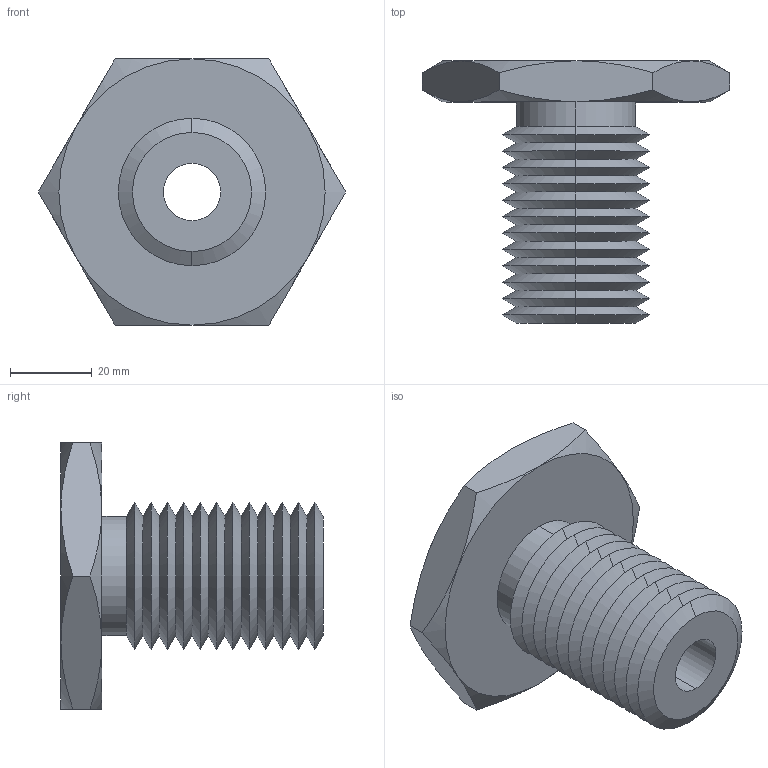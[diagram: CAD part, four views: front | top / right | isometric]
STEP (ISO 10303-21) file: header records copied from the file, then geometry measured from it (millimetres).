
FILE_DESCRIPTION (( 'STEP AP203' ), '1' );
FILE_NAME ('63302.W0036_M14x2.step', '2013-12-08T11:09:04', ( 'User' ), ( '' ), 'SwSTEP 2.0', 'SolidWorks 2009', '' );
FILE_SCHEMA (( 'CONFIG_CONTROL_DESIGN' ));
Length unit declared in the file: millimetre
Products named in the file (1): 63302.W0036_M14x2
Bounding box: 75.06 x 64 x 65 mm (x, y, z)
Volume: 70085.9 mm3; surface area: 22047.8 mm2
Topology: 1 solids, 1 shells, 75 faces, 154 edges, 82 vertices
Faces by surface type: cone 62, plane 9, cylinder 4
Entity records: 2139 total; most frequent: CARTESIAN_POINT 496, DIRECTION 352, ORIENTED_EDGE 308, EDGE_CURVE 154, AXIS2_PLACEMENT_3D 146, VERTEX_POINT 82, EDGE_LOOP 78, ADVANCED_FACE 75
